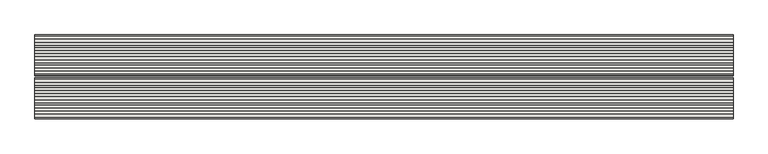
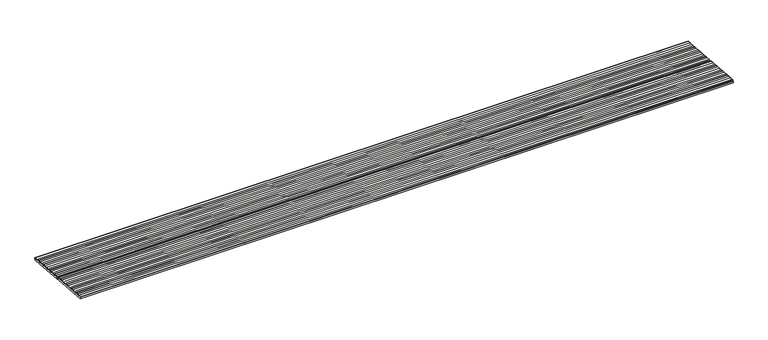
"""IFC4 building model written with IfcOpenShell, lengths in millimetres: slab geometry, ROSA GRES_001 (2 filas) : Piezas 001_Aqua_Blanco_Anti-Slip."""

from ifc_helpers import new_model, si_unit, point, frame, frame_2d, origin, place, context, project, spatial, polyline, circle_curve, trimmed, segment, composite_curve, outline, extrude, source, transform, mapped, element, save


def slab_964b0d1d(model_context):
    return source(origin(), model_context, "Body", "SweptSolid", [
        extrude(outline(polyline([(0.0, 118.9996), (2028.0728665, 118.9996), (2028.0728665, 0.0), (0.0, 0.0), (0.0, 118.9996)])), frame((2028.0728665, -124.0577627, 199.6968204), z_axis=(0.0, 0.08112705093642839, 0.9967037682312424), x_axis=(-1.0, 0.0, 0.0)), (0.0, 0.0, 1.0), 5.0),
        extrude(outline(polyline([(0.0, 118.9996), (2028.0728665, 118.9996), (2028.0728665, 0.0), (0.0, 0.0), (0.0, 118.9996)])), frame((2028.0728665, -248.6453351, 209.8376693), z_axis=(0.0, 0.08112705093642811, 0.9967037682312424), x_axis=(-1.0, 0.0, 0.0)), (0.0, 0.0, 1.0), 5.0),
        extrude(outline(composite_curve([segment(polyline([(-242.2594772, 214.3344258), (-242.046278, 216.9537305)]), True, "CONTINUOUS"), segment(trimmed(circle_curve(frame_2d((-241.5926747, 222.5265709)), 5.5912705), [point((-242.046278, 216.9537305))], [point((-237.6514463, 218.5605875))], True, "CARTESIAN"), True, "CONTINUOUS"), segment(trimmed(circle_curve(frame_2d((-233.1207211, 221.8369933)), 5.5912705), [point((-237.6514463, 218.5605875))], [point((-229.1794928, 217.8710099))], True, "CARTESIAN"), True, "CONTINUOUS"), segment(trimmed(circle_curve(frame_2d((-224.6487676, 221.1474157)), 5.5912705), [point((-229.1794928, 217.8710099))], [point((-220.7075392, 217.1814322))], True, "CARTESIAN"), True, "CONTINUOUS"), segment(trimmed(circle_curve(frame_2d((-216.176814, 220.457838)), 5.5912705), [point((-220.7075392, 217.1814322))], [point((-212.2355856, 216.4918546))], True, "CARTESIAN"), True, "CONTINUOUS"), segment(trimmed(circle_curve(frame_2d((-207.7048605, 219.7682604)), 5.5912705), [point((-212.2355856, 216.4918546))], [point((-203.7636321, 215.802277))], True, "CARTESIAN"), True, "CONTINUOUS"), segment(trimmed(circle_curve(frame_2d((-199.2329069, 219.0786828)), 5.5912705), [point((-203.7636321, 215.802277))], [point((-195.2916785, 215.1126994))], True, "CARTESIAN"), True, "CONTINUOUS"), segment(trimmed(circle_curve(frame_2d((-190.7609534, 218.3891052)), 5.5912705), [point((-195.2916785, 215.1126994))], [point((-186.819725, 214.4231218))], True, "CARTESIAN"), True, "CONTINUOUS"), segment(trimmed(circle_curve(frame_2d((-182.2889998, 217.6995276)), 5.5912705), [point((-186.819725, 214.4231218))], [point((-178.3477714, 213.7335442))], True, "CARTESIAN"), True, "CONTINUOUS"), segment(trimmed(circle_curve(frame_2d((-173.8170463, 217.00995)), 5.5912705), [point((-178.3477714, 213.7335442))], [point((-169.8758179, 213.0439666))], True, "CARTESIAN"), True, "CONTINUOUS"), segment(trimmed(circle_curve(frame_2d((-165.3450927, 216.3203723)), 5.5912705), [point((-169.8758179, 213.0439666))], [point((-161.4038643, 212.3543889))], True, "CARTESIAN"), True, "CONTINUOUS"), segment(trimmed(circle_curve(frame_2d((-156.8731392, 215.6307947)), 5.5912705), [point((-161.4038643, 212.3543889))], [point((-152.9319108, 211.6648113))], True, "CARTESIAN"), True, "CONTINUOUS"), segment(trimmed(circle_curve(frame_2d((-148.4011856, 214.9412171)), 5.5912705), [point((-152.9319108, 211.6648113))], [point((-144.4599572, 210.9752337))], True, "CARTESIAN"), True, "CONTINUOUS"), segment(trimmed(circle_curve(frame_2d((-139.929232, 214.2516395)), 5.5912705), [point((-144.4599572, 210.9752337))], [point((-135.9880037, 210.2856561))], True, "CARTESIAN"), True, "CONTINUOUS"), segment(trimmed(circle_curve(frame_2d((-131.4572785, 213.5620619)), 5.5912705), [point((-135.9880037, 210.2856561))], [point((-127.5160501, 209.5960785))], True, "CARTESIAN"), True, "CONTINUOUS"), segment(trimmed(circle_curve(frame_2d((-122.9853249, 212.8724843)), 5.5912705), [point((-127.5160501, 209.5960785))], [point((-123.4389282, 207.2996439))], True, "CARTESIAN"), True, "CONTINUOUS"), segment(polyline([(-123.4389282, 207.2996439), (-123.6521274, 204.6803392), (-242.2594772, 214.3344258)]), True, "CONTINUOUS")], self_intersect=False)), frame((0.0, 0.0, 0.0), z_axis=(1.0, 0.0, 0.0), x_axis=(0.0, 1.0, 0.0)), (0.0, 0.0, 1.0), 2028.0728665),
        extrude(outline(composite_curve([segment(polyline([(-366.8470495, 224.4752747), (-366.6338503, 227.0945794)]), True, "CONTINUOUS"), segment(trimmed(circle_curve(frame_2d((-366.180247, 232.6674198)), 5.5912705), [point((-366.6338503, 227.0945794))], [point((-362.2390187, 228.7014364))], True, "CARTESIAN"), True, "CONTINUOUS"), segment(trimmed(circle_curve(frame_2d((-357.7082935, 231.9778422)), 5.5912705), [point((-362.2390187, 228.7014364))], [point((-353.7670651, 228.0118588))], True, "CARTESIAN"), True, "CONTINUOUS"), segment(trimmed(circle_curve(frame_2d((-349.2363399, 231.2882646)), 5.5912705), [point((-353.7670651, 228.0118588))], [point((-345.2951115, 227.3222812))], True, "CARTESIAN"), True, "CONTINUOUS"), segment(trimmed(circle_curve(frame_2d((-340.7643864, 230.5986869)), 5.5912705), [point((-345.2951115, 227.3222812))], [point((-336.823158, 226.6327035))], True, "CARTESIAN"), True, "CONTINUOUS"), segment(trimmed(circle_curve(frame_2d((-332.2924328, 229.9091093)), 5.5912705), [point((-336.823158, 226.6327035))], [point((-328.3512044, 225.9431259))], True, "CARTESIAN"), True, "CONTINUOUS"), segment(trimmed(circle_curve(frame_2d((-323.8204793, 229.2195317)), 5.5912705), [point((-328.3512044, 225.9431259))], [point((-319.8792509, 225.2535483))], True, "CARTESIAN"), True, "CONTINUOUS"), segment(trimmed(circle_curve(frame_2d((-315.3485257, 228.5299541)), 5.5912705), [point((-319.8792509, 225.2535483))], [point((-311.4072973, 224.5639707))], True, "CARTESIAN"), True, "CONTINUOUS"), segment(trimmed(circle_curve(frame_2d((-306.8765722, 227.8403765)), 5.5912705), [point((-311.4072973, 224.5639707))], [point((-302.9353438, 223.8743931))], True, "CARTESIAN"), True, "CONTINUOUS"), segment(trimmed(circle_curve(frame_2d((-298.4046186, 227.1507989)), 5.5912705), [point((-302.9353438, 223.8743931))], [point((-294.4633902, 223.1848155))], True, "CARTESIAN"), True, "CONTINUOUS"), segment(trimmed(circle_curve(frame_2d((-289.9326651, 226.4612213)), 5.5912705), [point((-294.4633902, 223.1848155))], [point((-285.9914367, 222.4952379))], True, "CARTESIAN"), True, "CONTINUOUS"), segment(trimmed(circle_curve(frame_2d((-281.4607115, 225.7716436)), 5.5912705), [point((-285.9914367, 222.4952379))], [point((-277.5194831, 221.8056602))], True, "CARTESIAN"), True, "CONTINUOUS"), segment(trimmed(circle_curve(frame_2d((-272.9887579, 225.082066)), 5.5912705), [point((-277.5194831, 221.8056602))], [point((-269.0475296, 221.1160826))], True, "CARTESIAN"), True, "CONTINUOUS"), segment(trimmed(circle_curve(frame_2d((-264.5168044, 224.3924884)), 5.5912705), [point((-269.0475296, 221.1160826))], [point((-260.575576, 220.426505))], True, "CARTESIAN"), True, "CONTINUOUS"), segment(trimmed(circle_curve(frame_2d((-256.0448508, 223.7029108)), 5.5912705), [point((-260.575576, 220.426505))], [point((-252.1036225, 219.7369274))], True, "CARTESIAN"), True, "CONTINUOUS"), segment(trimmed(circle_curve(frame_2d((-247.5728973, 223.0133332)), 5.5912705), [point((-252.1036225, 219.7369274))], [point((-248.0265006, 217.4404928))], True, "CARTESIAN"), True, "CONTINUOUS"), segment(polyline([(-248.0265006, 217.4404928), (-248.2396998, 214.8211881), (-366.8470495, 224.4752747)]), True, "CONTINUOUS")], self_intersect=False)), frame((0.0, 0.0, 0.0), z_axis=(1.0, 0.0, 0.0), x_axis=(0.0, 1.0, 0.0)), (0.0, 0.0, 1.0), 2028.0728665),
    ])


if __name__ == "__main__":
    model = new_model("IFC4")
    model_context = context("Model", 3, world=origin())
    ifc_project = project(units=[si_unit("LENGTHUNIT", "METRE", prefix="MILLI")], contexts=[model_context])
    site = spatial("IfcSite", under=ifc_project)
    building = spatial("IfcBuilding", under=site)
    placement = place(None, origin())
    slab_shape = slab_964b0d1d(model_context)
    element("IfcSlab", 1, ObjectType="ROSA GRES_001 (2 filas) : Piezas 001_Aqua_Blanco_Anti-Slip", at=placement, inside=building, context=model_context, shape_type="MappedRepresentation", body=[
        mapped(slab_shape, transform((0.0, 0.0, 0.0), x_axis=(1.0, 0.0, 0.0), y_axis=(0.0, 1.0, 0.0), z_axis=(0.0, 0.0, 1.0))),
    ])
    save(model, "model.ifc")
